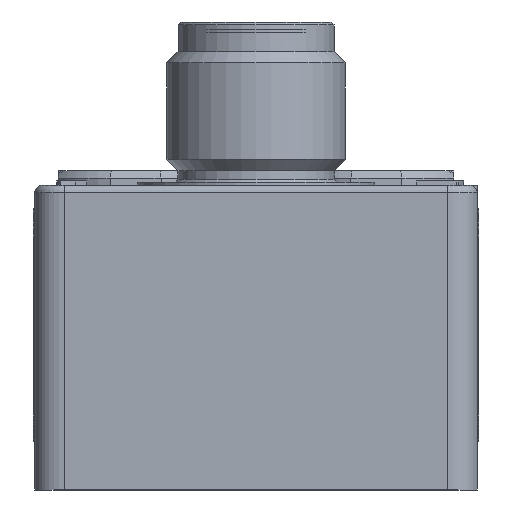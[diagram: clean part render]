
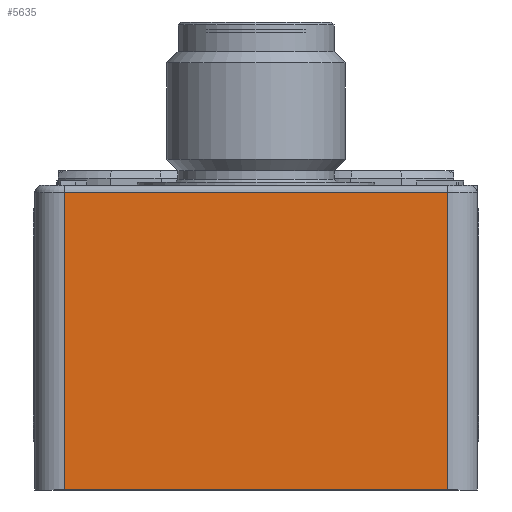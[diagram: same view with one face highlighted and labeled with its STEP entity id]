
A CAD part, left-side view. The second image highlights one B-rep face of the part: STEP entity #5635.
In plain terms, the highlighted planar face has unit normal (-1, 0, 0) as drawn and (1, 0, 0) by its records, which use the part's own axes.
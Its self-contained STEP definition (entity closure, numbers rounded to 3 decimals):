
#1627=FACE_OUTER_BOUND('',#7732,.F.);
#1659=LINE('',#25095,#2872);
#2841=LINE('',#33509,#4054);
#2842=LINE('',#33511,#4055);
#2843=LINE('',#33513,#4056);
#2872=VECTOR('',#20115,1.);
#4054=VECTOR('',#24969,1.);
#4055=VECTOR('',#24972,1.);
#4056=VECTOR('',#24975,1.);
#4570=PLANE('',#20025);
#5635=ADVANCED_FACE('',(#1627),#4570,.T.);
#7732=EDGE_LOOP('',(#12907,#12908,#12909,#12910));
#12907=ORIENTED_EDGE('',*,*,#17269,.F.);
#12908=ORIENTED_EDGE('',*,*,#17270,.F.);
#12909=ORIENTED_EDGE('',*,*,#14724,.F.);
#12910=ORIENTED_EDGE('',*,*,#17271,.F.);
#12974=VERTEX_POINT('',#25094);
#12975=VERTEX_POINT('',#25096);
#14677=VERTEX_POINT('',#33502);
#14678=VERTEX_POINT('',#33506);
#14724=EDGE_CURVE('',#12974,#12975,#1659,.T.);
#17269=EDGE_CURVE('',#14678,#14677,#2841,.T.);
#17270=EDGE_CURVE('',#12975,#14678,#2842,.T.);
#17271=EDGE_CURVE('',#14677,#12974,#2843,.T.);
#20025=AXIS2_PLACEMENT_3D('',#33515,#24978,#24979);
#20115=DIRECTION('',(0.,1.,0.));
#24969=DIRECTION('',(0.,-1.,0.));
#24972=DIRECTION('',(0.,0.,1.));
#24975=DIRECTION('',(0.,0.,-1.));
#24978=DIRECTION('',(1.,0.,0.));
#24979=DIRECTION('',(0.,0.,1.));
#25094=CARTESIAN_POINT('',(-49.5,-12.9,-0.5));
#25095=CARTESIAN_POINT('',(-49.5,-12.9,-0.5));
#25096=CARTESIAN_POINT('',(-49.5,12.9,-0.5));
#33502=CARTESIAN_POINT('',(-49.5,-12.9,19.5));
#33506=CARTESIAN_POINT('',(-49.5,12.9,19.5));
#33509=CARTESIAN_POINT('',(-49.5,12.9,19.5));
#33511=CARTESIAN_POINT('',(-49.5,12.9,-0.5));
#33513=CARTESIAN_POINT('',(-49.5,-12.9,19.5));
#33515=CARTESIAN_POINT('',(-49.5,-14.5,20.));
